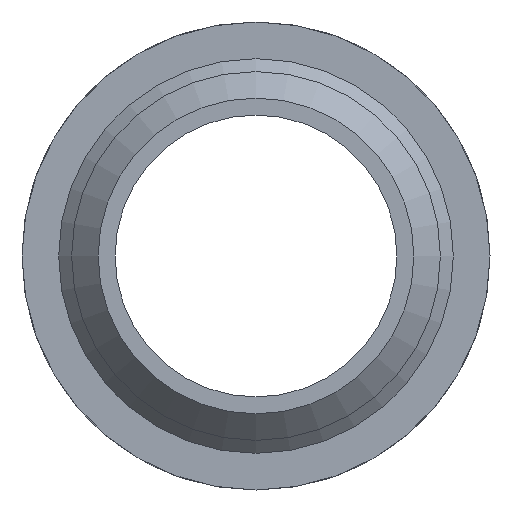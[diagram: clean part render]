
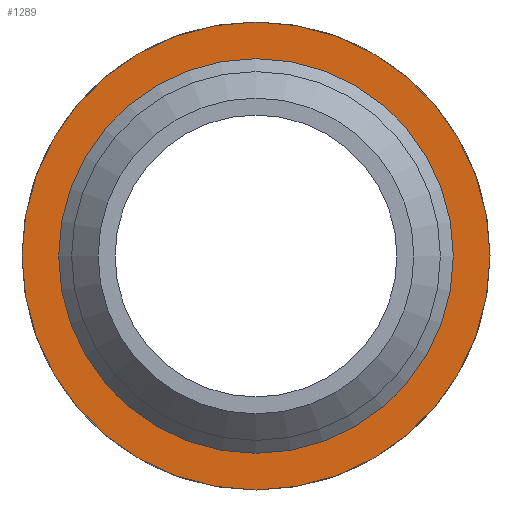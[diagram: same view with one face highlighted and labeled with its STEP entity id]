
A CAD part, left-side view. The second image highlights one B-rep face of the part: STEP entity #1289.
In plain terms, the highlighted planar face has unit normal (-1, 0, 0).
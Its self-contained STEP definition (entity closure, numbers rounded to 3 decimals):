
#199=CARTESIAN_POINT('',(-24.348,35.,0.));
#200=VERTEX_POINT('',#199);
#201=CARTESIAN_POINT('',(-24.348,0.,0.));
#202=DIRECTION('',(1.0,0.0,0.0));
#203=DIRECTION('',(0.0,1.0,0.0));
#204=AXIS2_PLACEMENT_3D('',#201,#202,#203);
#205=CIRCLE('',#204,35.);
#206=EDGE_CURVE('',#200,#200,#205,.T.);
#1270=CARTESIAN_POINT('',(-24.348,38.25,0.));
#1271=DIRECTION('',(-1.0,0.0,0.0));
#1272=DIRECTION('',(0.0,0.0,1.0));
#1273=AXIS2_PLACEMENT_3D('',#1270,#1271,#1272);
#1274=PLANE('',#1273);
#1275=CARTESIAN_POINT('',(-24.348,41.5,0.));
#1276=VERTEX_POINT('',#1275);
#1277=CARTESIAN_POINT('',(-24.348,0.,0.));
#1278=DIRECTION('',(1.0,0.0,0.0));
#1279=DIRECTION('',(0.0,1.0,0.0));
#1280=AXIS2_PLACEMENT_3D('',#1277,#1278,#1279);
#1281=CIRCLE('',#1280,41.5);
#1282=EDGE_CURVE('',#1276,#1276,#1281,.T.);
#1283=ORIENTED_EDGE('',*,*,#1282,.F.);
#1284=EDGE_LOOP('',(#1283));
#1285=FACE_OUTER_BOUND('',#1284,.T.);
#1286=ORIENTED_EDGE('',*,*,#206,.T.);
#1287=EDGE_LOOP('',(#1286));
#1288=FACE_BOUND('',#1287,.T.);
#1289=ADVANCED_FACE('',(#1285,#1288),#1274,.T.);
